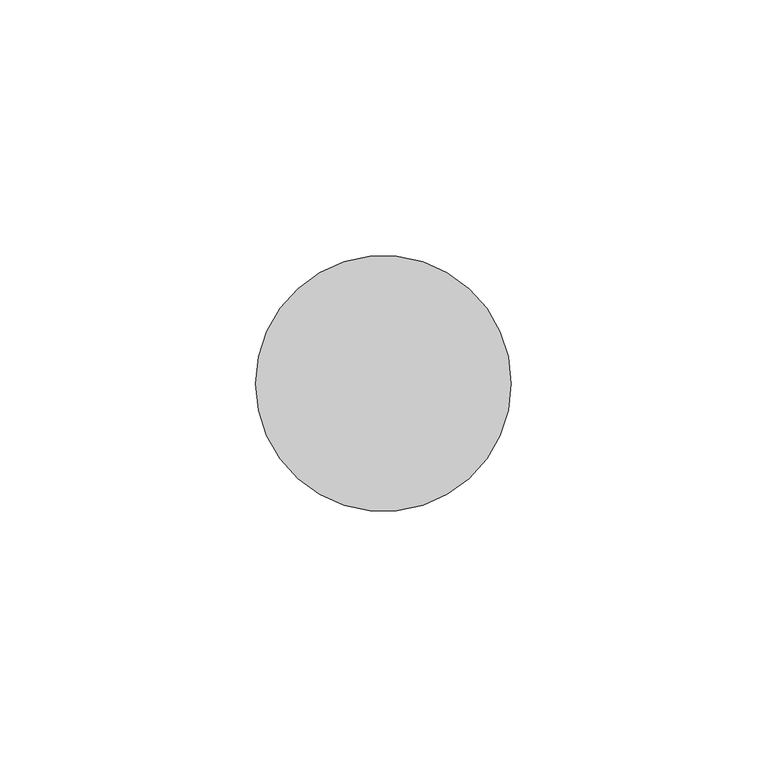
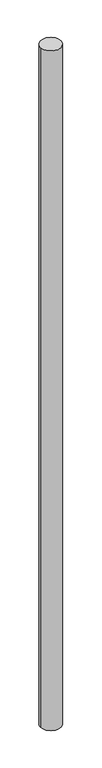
"""IFC4 building model written with IfcOpenShell, lengths in millimetres: member geometry, 圓形豎框 : 25mm 半徑."""

from ifc_helpers import new_model, si_unit, point, frame, origin, origin_2d, place, context, project, spatial, circle_curve, trimmed, segment, composite_curve, outline, extrude, source, transform, mapped, element, save


def member_0f460398(model_context):
    return source(origin(), model_context, "Body", "SweptSolid", [
        extrude(outline(composite_curve([segment(trimmed(circle_curve(origin_2d(), 25.0), [point((25.0, 0.0))], [point((-25.0, 0.0))], False, "CARTESIAN"), True, "CONTINUOUS"), segment(trimmed(circle_curve(origin_2d(), 25.0), [point((-25.0, 0.0))], [point((25.0, 0.0))], False, "CARTESIAN"), True, "CONTINUOUS")], self_intersect=False)), frame((0.0, 0.0, -1750.0), z_axis=(0.0, 0.0, 1.0), x_axis=(1.0, 0.0, 0.0)), (0.0, 0.0, 1.0), 1750.0),
    ])


if __name__ == "__main__":
    model = new_model("IFC4")
    model_context = context("Model", 3, world=origin())
    ifc_project = project(units=[si_unit("LENGTHUNIT", "METRE", prefix="MILLI")], contexts=[model_context])
    site = spatial("IfcSite", under=ifc_project)
    building = spatial("IfcBuilding", under=site)
    placement = place(None, origin())
    member_shape = member_0f460398(model_context)
    element("IfcMember", 1, ObjectType="圓形豎框 : 25mm 半徑", at=placement, inside=building, context=model_context, shape_type="MappedRepresentation", body=[
        mapped(member_shape, transform((0.0, 0.0, 0.0), x_axis=(1.0, 0.0, 0.0), y_axis=(0.0, 1.0, 0.0), z_axis=(0.0, 0.0, 1.0))),
    ])
    save(model, "model.ifc")
